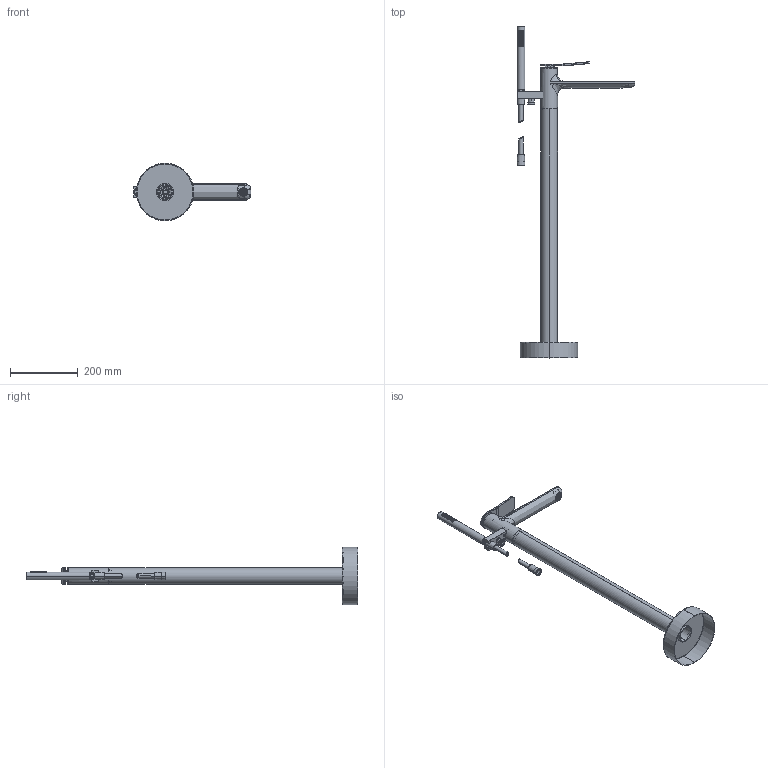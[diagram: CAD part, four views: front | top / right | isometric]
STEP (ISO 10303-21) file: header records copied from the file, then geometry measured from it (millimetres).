
FILE_DESCRIPTION((''),'2;1');
FILE_NAME('3DF_F3804_6','2022-03-10T17:17:35',('ivanv'),(''),'CREO PARAMETRIC BY PTC INC, 2021184','CREO PARAMETRIC BY PTC INC, 2021184','');
FILE_SCHEMA(('CONFIG_CONTROL_DESIGN'));
Products named in the file (1): 3DF_F3804_6
Bounding box: 347.8 x 980.5 x 170 mm (x, y, z)
Volume: 602197 mm3; surface area: 460485.5 mm2
Topology: 7 solids, 8 shells, 6226 faces, 17373 edges, 11197 vertices
Faces by surface type: plane 4788, cylinder 907, bspline 182, torus 128, extrusion 87, cone 70, sphere 64
Entity records: 250133 total; most frequent: CARTESIAN_POINT 104606, ORIENTED_EDGE 34690, DIRECTION 22625, EDGE_CURVE 17345, VERTEX_POINT 11197, B_SPLINE_CURVE_WITH_KNOTS 8489, AXIS2_PLACEMENT_3D 7639, EDGE_LOOP 7444
